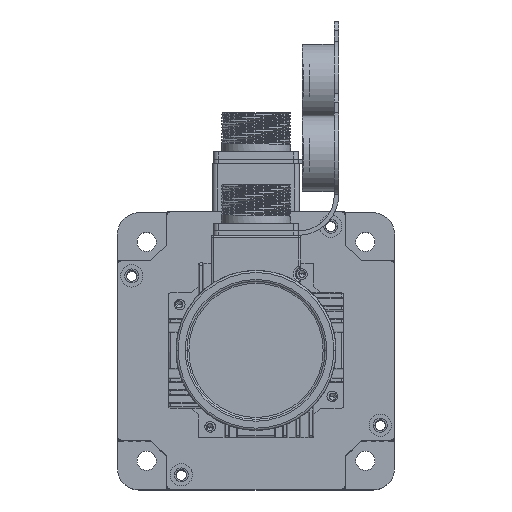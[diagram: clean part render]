
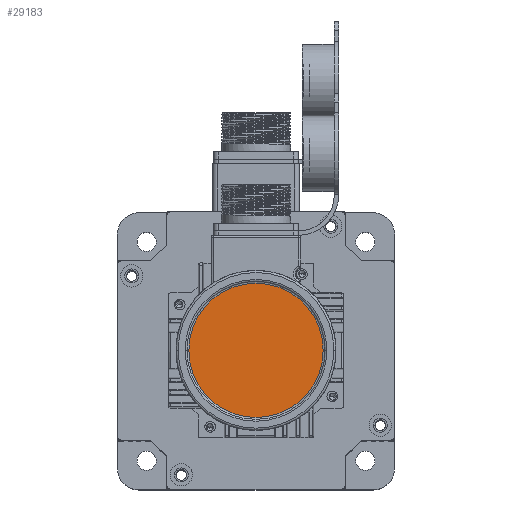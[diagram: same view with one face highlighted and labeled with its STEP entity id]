
A CAD part, top view. The second image highlights one B-rep face of the part: STEP entity #29183.
In plain terms, the highlighted planar face has unit normal (0, 0, 1) as drawn and (0, 0, -1) by its records, which use the part's own axes.
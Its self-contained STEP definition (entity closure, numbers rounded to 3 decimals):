
#1572 = DIRECTION ( 'NONE',  ( 0., 0., -1. ) ) ;
#4859 = VERTEX_POINT ( 'NONE', #26494 ) ;
#8872 = CARTESIAN_POINT ( 'NONE',  ( 31.5, 0., -41.5 ) ) ;
#10447 = PLANE ( 'NONE',  #20738 ) ;
#14828 = DIRECTION ( 'NONE',  ( 0., 0., -1. ) ) ;
#15204 = EDGE_LOOP ( 'NONE', ( #38652, #53829 ) ) ;
#15269 = DIRECTION ( 'NONE',  ( -1., 0., 0. ) ) ;
#20738 = AXIS2_PLACEMENT_3D ( 'NONE', #38687, #43904, #15269 ) ;
#22029 = CIRCLE ( 'NONE', #54348, 31.5 ) ;
#26494 = CARTESIAN_POINT ( 'NONE',  ( -31.5, 0., -41.5 ) ) ;
#29183 = ADVANCED_FACE ( 'NONE', ( #38115 ), #10447, .T. ) ;
#30272 = CARTESIAN_POINT ( 'NONE',  ( 0., 0., -41.5 ) ) ;
#35080 = DIRECTION ( 'NONE',  ( -1., 0., 0. ) ) ;
#37744 = CIRCLE ( 'NONE', #45890, 31.5 ) ;
#38115 = FACE_OUTER_BOUND ( 'NONE', #15204, .T. ) ;
#38449 = EDGE_CURVE ( 'NONE', #4859, #42409, #37744, .T. ) ;
#38652 = ORIENTED_EDGE ( 'NONE', *, *, #38449, .T. ) ;
#38687 = CARTESIAN_POINT ( 'NONE',  ( 0., 0., -41.5 ) ) ;
#42409 = VERTEX_POINT ( 'NONE', #8872 ) ;
#43445 = CARTESIAN_POINT ( 'NONE',  ( 0., 0., -41.5 ) ) ;
#43904 = DIRECTION ( 'NONE',  ( 0., 0., -1. ) ) ;
#45890 = AXIS2_PLACEMENT_3D ( 'NONE', #30272, #1572, #35080 ) ;
#47469 = EDGE_CURVE ( 'NONE', #42409, #4859, #22029, .T. ) ;
#48291 = DIRECTION ( 'NONE',  ( -1., 0., 0. ) ) ;
#53829 = ORIENTED_EDGE ( 'NONE', *, *, #47469, .T. ) ;
#54348 = AXIS2_PLACEMENT_3D ( 'NONE', #43445, #14828, #48291 ) ;
